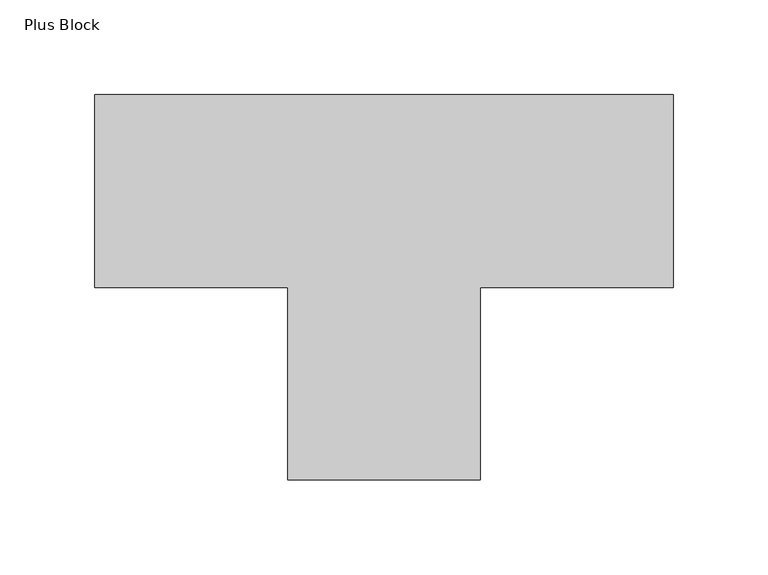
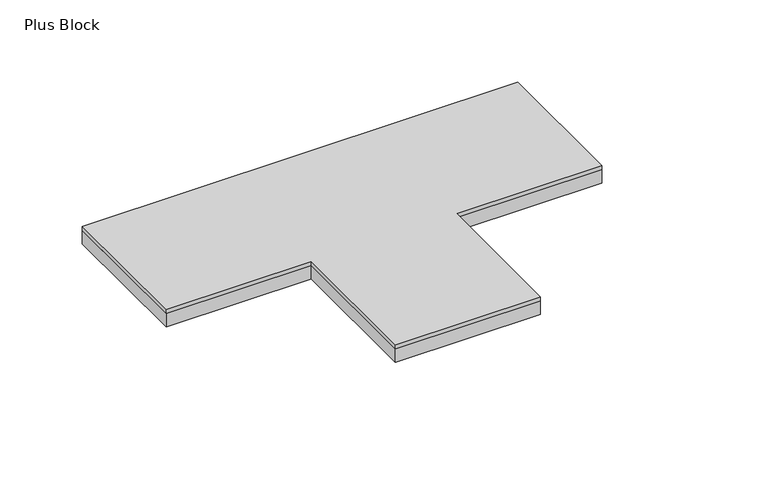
"""IFC4 building model written with IfcOpenShell, lengths in millimetres: proxy geometry, FilzFelt_Plus_Block : Plus Block."""

import ifcopenshell
import ifcopenshell.guid

model = None  # the IFC model being written
_history = None  # IfcOwnerHistory: only IFC2X3 demands one
_inside = {}  # id of a spatial element -> (the spatial element, [elements in it])
_under = {}  # id of a project, library or spatial element -> (it, [spatial elements below it])
_declared = {}  # id of a project -> (the project, [libraries it declares])
_typed = {}  # id of a type object -> (the type object, [elements of that type])
_made_of = {}  # id of a material, layer set ... -> (it, [elements and type objects made of it])


def new_model(schema):
    """Start an empty IFC model of exactly this schema.

    Asked for "IFC4X3", IfcOpenShell would pick the latest addendum, in which some entities
    have other attributes; the version numbers below select the first issue.
    IFC2X3 requires an IfcOwnerHistory on every rooted entity: one is made here for all.
    """
    global model, _history
    if schema == "IFC4X3":
        model = ifcopenshell.file(schema_version=(4, 3, 0, 0))
    else:
        model = ifcopenshell.file(schema=schema)
    _inside.clear()
    _under.clear()
    _declared.clear()
    _typed.clear()
    _made_of.clear()
    _history = None
    if model.schema == "IFC2X3":
        org = make("IfcOrganization", Name="unknown")
        user = make(
            "IfcPersonAndOrganization",
            ThePerson=make("IfcPerson", FamilyName="unknown"),
            TheOrganization=org,
        )
        app = make(
            "IfcApplication",
            ApplicationDeveloper=org,
            Version="unknown",
            ApplicationFullName="unknown",
            ApplicationIdentifier="unknown",
        )
        _history = make(
            "IfcOwnerHistory",
            OwningUser=user,
            OwningApplication=app,
            ChangeAction="ADDED",
            CreationDate=0,
        )
    return model


def make(cls, **values):
    """One entity of the class cls with the attributes given. An attribute that is None is left unset."""
    return model.create_entity(
        cls, **{name: value for name, value in values.items() if value is not None}
    )


def rooted(cls, **values):
    """An entity with a GlobalId (a new one), such as an element, a storey or a relation."""
    return make(cls, GlobalId=ifcopenshell.guid.new(), OwnerHistory=_history, **values)


def si_unit(unit_type, name, prefix=None):
    """IfcSIUnit, for example si_unit("LENGTHUNIT", "METRE", prefix="MILLI")."""
    return make("IfcSIUnit", UnitType=unit_type, Prefix=prefix, Name=name)


def assignment(units):
    """IfcUnitAssignment: the units of a project."""
    return None if units is None else make("IfcUnitAssignment", Units=units)


def point(xyz):
    """IfcCartesianPoint."""
    return None if xyz is None else make("IfcCartesianPoint", Coordinates=xyz)


def direction(xyz):
    """IfcDirection."""
    return None if xyz is None else make("IfcDirection", DirectionRatios=xyz)


def frame(location, z_axis=None, x_axis=None):
    """IfcAxis2Placement3D, a coordinate frame: its origin and axes. An axis left out is left unset."""
    return make(
        "IfcAxis2Placement3D",
        Location=point(location),
        Axis=direction(z_axis),
        RefDirection=direction(x_axis),
    )


def origin():
    """The frame at (0, 0, 0) with its axes left unset."""
    return frame((0.0, 0.0, 0.0))


def origin_with_axes():
    """The frame at (0, 0, 0) with the z axis (0, 0, 1) and the x axis (1, 0, 0) written out."""
    return frame((0.0, 0.0, 0.0), z_axis=(0.0, 0.0, 1.0), x_axis=(1.0, 0.0, 0.0))


def place(relative_to, where):
    """IfcLocalPlacement: puts the frame where relative to a parent placement (None: the world)."""
    return make(
        "IfcLocalPlacement", PlacementRelTo=relative_to, RelativePlacement=where
    )


def context(
    kind, dimensions, precision=None, world=None, true_north=None, identifier=None
):
    """IfcGeometricRepresentationContext, for example the 3D "Model" context."""
    return make(
        "IfcGeometricRepresentationContext",
        ContextIdentifier=identifier,
        ContextType=kind,
        CoordinateSpaceDimension=dimensions,
        Precision=precision,
        WorldCoordinateSystem=world,
        TrueNorth=true_north,
    )


def project(units=None, contexts=None):
    """IfcProject with its units and contexts."""
    return rooted(
        "IfcProject",
        Name="project",
        RepresentationContexts=contexts,
        UnitsInContext=assignment(units),
    )


def spatial(cls, under=None, at=None, **own):
    """A site, building, storey or space (cls), placed at a placement, below another one or the project."""
    s = rooted(cls, ObjectPlacement=at, **own)
    if under is not None:
        _under.setdefault(under.id(), (under, []))[1].append(s)
    return s


def polyline(points):
    """IfcPolyline through the points."""
    return make("IfcPolyline", Points=[point(p) for p in points])


def outline(outer, holes=None, kind="AREA"):
    """IfcArbitraryClosedProfileDef: a profile drawn as a closed curve; with holes, ...WithVoids."""
    if holes is None:
        return make("IfcArbitraryClosedProfileDef", ProfileType=kind, OuterCurve=outer)
    return make(
        "IfcArbitraryProfileDefWithVoids",
        ProfileType=kind,
        OuterCurve=outer,
        InnerCurves=holes,
    )


def extrude(swept, where, along, depth):
    """IfcExtrudedAreaSolid: the profile swept, set in the frame where, extruded along a direction by depth."""
    return make(
        "IfcExtrudedAreaSolid",
        SweptArea=swept,
        Position=where,
        ExtrudedDirection=direction(along),
        Depth=depth,
    )


def shape(context_of_items, identifier, shape_type, items):
    """IfcShapeRepresentation: the items that make up one representation, for example the "Body"."""
    return make(
        "IfcShapeRepresentation",
        ContextOfItems=context_of_items,
        RepresentationIdentifier=identifier,
        RepresentationType=shape_type,
        Items=items,
    )


def source(mapping_origin, context_of_items, identifier, shape_type, items):
    """IfcRepresentationMap: a shape defined once, which mapped items show again and again."""
    return make(
        "IfcRepresentationMap",
        MappingOrigin=mapping_origin,
        MappedRepresentation=shape(context_of_items, identifier, shape_type, items),
    )


def transform(
    local_origin,
    x_axis=None,
    y_axis=None,
    z_axis=None,
    scale=None,
    scale2=None,
    scale3=None,
    uniform=True,
):
    """IfcCartesianTransformationOperator3D, or its non-uniform kind. x_axis, y_axis, z_axis: its Axis1, 2, 3."""
    if uniform:
        return make(
            "IfcCartesianTransformationOperator3D",
            Axis1=direction(x_axis),
            Axis2=direction(y_axis),
            LocalOrigin=point(local_origin),
            Scale=scale,
            Axis3=direction(z_axis),
        )
    return make(
        "IfcCartesianTransformationOperator3DnonUniform",
        Axis1=direction(x_axis),
        Axis2=direction(y_axis),
        LocalOrigin=point(local_origin),
        Scale=scale,
        Axis3=direction(z_axis),
        Scale2=scale2,
        Scale3=scale3,
    )


def mapped(mapping_source, mapping_target):
    """IfcMappedItem: shows the shape of a source again, moved by a transform."""
    return make(
        "IfcMappedItem", MappingSource=mapping_source, MappingTarget=mapping_target
    )


def made_of(thing, what):
    """Note that an element or type object is made of a material, layer set ...; save() writes the relation."""
    if what is not None:
        _made_of.setdefault(what.id(), (what, []))[1].append(thing)
    return thing


def element(
    cls,
    number,
    at=None,
    inside=None,
    cuts=None,
    type_object=None,
    material=None,
    context=None,
    identifier="Body",
    shape_type=None,
    held_by="IfcProductDefinitionShape",
    body=None,
    shapes=None,
    **own,
):
    """One element of the class cls, such as IfcWall. Its Tag is "e" and its number.

    at: its placement. inside: the storey or other place that contains it. cuts: it is an
    opening in that element (IfcRelVoidsElement). A single representation is given by context,
    identifier, shape_type and body (its items); several are given by shapes. held_by: the class
    of the entity that holds the representations. save() writes the other relations.
    """
    e = rooted(cls, Tag="e%d" % number, ObjectPlacement=at, **own)
    if body is not None:
        shapes = [shape(context, identifier, shape_type, body)]
    if shapes is not None:
        e.Representation = make(held_by, Representations=shapes)
    if inside is not None:
        _inside.setdefault(inside.id(), (inside, []))[1].append(e)
    if cuts is not None:
        rooted(
            "IfcRelVoidsElement", RelatingBuildingElement=cuts, RelatedOpeningElement=e
        )
    if type_object is not None:
        _typed.setdefault(type_object.id(), (type_object, []))[1].append(e)
    return made_of(e, material)


def aggregate(whole, parts):
    """IfcRelAggregates: a whole, such as a stair, and the parts it consists of."""
    return rooted("IfcRelAggregates", RelatingObject=whole, RelatedObjects=parts)


def save(model, path):
    """Write the relations noted so far, then the file.

    IfcRelAggregates (storeys below a building ...), IfcRelContainedInSpatialStructure (elements
    in a storey), IfcRelDefinesByType, IfcRelAssociatesMaterial and IfcRelDeclares: one each for
    every whole, place, type object, material and project.
    """
    for whole, parts in _under.values():
        aggregate(whole, parts)
    for where, things in _inside.values():
        rooted(
            "IfcRelContainedInSpatialStructure",
            RelatedElements=things,
            RelatingStructure=where,
        )
    for kind, things in _typed.values():
        rooted("IfcRelDefinesByType", RelatedObjects=things, RelatingType=kind)
    for what, things in _made_of.values():
        rooted("IfcRelAssociatesMaterial", RelatedObjects=things, RelatingMaterial=what)
    for by, libraries in _declared.values():
        rooted("IfcRelDeclares", RelatingContext=by, RelatedDefinitions=libraries)
    model.write(path)


def plus_block_975a3b46(model_context):
    return source(origin(), model_context, "Body", "SweptSolid", [
        extrude(outline(polyline([(152.5, 50.8333333), (152.5, -50.8333333), (50.8333333, -50.8333333), (50.8333333, -152.5), (-50.8333333, -152.5), (-50.8333333, -50.8333333), (-152.5, -50.8333333), (-152.5, 50.8333333), (152.5, 50.8333333)])), frame((0.0, 0.0, 10.0210937), z_axis=(0.0, 0.0, 1.0), x_axis=(1.0, 0.0, 0.0)), (0.0, 0.0, 1.0), 2.9765625),
        extrude(outline(polyline([(-152.5, -50.8333333), (-152.5, 50.8333333), (152.5, 50.8333333), (152.5, -50.8333333), (50.8333333, -50.8333333), (50.8333333, -152.5), (-50.8333333, -152.5), (-50.8333333, -50.8333333), (-152.5, -50.8333333)])), origin_with_axes(), (0.0, 0.0, 1.0), 10.0210938),
    ])


if __name__ == "__main__":
    model = new_model("IFC4")
    model_context = context("Model", 3, world=origin())
    ifc_project = project(units=[si_unit("LENGTHUNIT", "METRE", prefix="MILLI")], contexts=[model_context])
    site = spatial("IfcSite", under=ifc_project)
    building = spatial("IfcBuilding", under=site)
    placement = place(None, origin())
    plus_block_shape = plus_block_975a3b46(model_context)
    element("IfcBuildingElementProxy", 1, Name="FilzFelt_Plus_Block : Plus Block", ObjectType="FilzFelt_Plus_Block : Plus Block", at=placement, inside=building, context=model_context, shape_type="MappedRepresentation", body=[
        mapped(plus_block_shape, transform((0.0, 0.0, 0.0), x_axis=(1.0, 0.0, 0.0), y_axis=(0.0, 1.0, 0.0), z_axis=(0.0, 0.0, 1.0))),
    ])
    save(model, "model.ifc")
